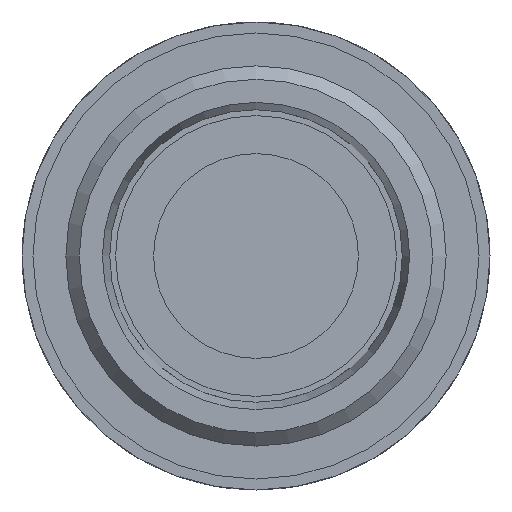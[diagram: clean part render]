
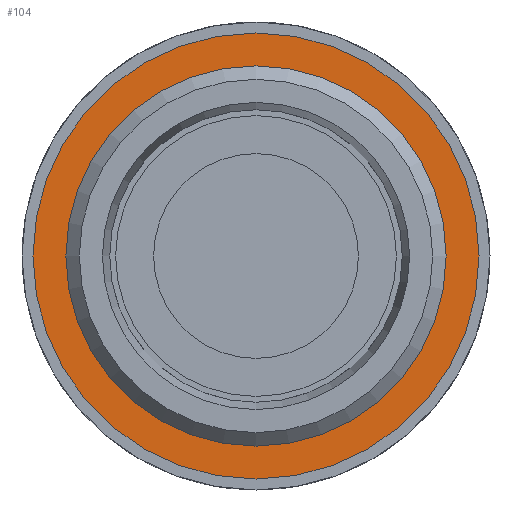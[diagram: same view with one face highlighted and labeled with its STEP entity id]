
A CAD part, left-side view. The second image highlights one B-rep face of the part: STEP entity #104.
In plain terms, the highlighted planar face has unit normal (-1, 0, 0).
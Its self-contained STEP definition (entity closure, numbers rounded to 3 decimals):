
#104 = ADVANCED_FACE( '', ( #181, #182 ), #183, .F. );
#181 = FACE_OUTER_BOUND( '', #263, .T. );
#182 = FACE_BOUND( '', #264, .T. );
#183 = PLANE( '', #265 );
#263 = EDGE_LOOP( '', ( #438 ) );
#264 = EDGE_LOOP( '', ( #439 ) );
#265 = AXIS2_PLACEMENT_3D( '', #440, #441, #442 );
#438 = ORIENTED_EDGE( '', *, *, #528, .F. );
#439 = ORIENTED_EDGE( '', *, *, #529, .T. );
#440 = CARTESIAN_POINT( '', ( 8.3, 13., 0. ) );
#441 = DIRECTION( '', ( 1., 0., 0. ) );
#442 = DIRECTION( '', ( 0., 0., -1. ) );
#528 = EDGE_CURVE( '', #622, #622, #623, .T. );
#529 = EDGE_CURVE( '', #624, #624, #625, .T. );
#622 = VERTEX_POINT( '', #790 );
#623 = CIRCLE( '', #791, 15.25 );
#624 = VERTEX_POINT( '', #792 );
#625 = CIRCLE( '', #793, 13. );
#790 = CARTESIAN_POINT( '', ( 8.3, 0., -15.25 ) );
#791 = AXIS2_PLACEMENT_3D( '', #896, #897, #898 );
#792 = CARTESIAN_POINT( '', ( 8.3, 0., -13. ) );
#793 = AXIS2_PLACEMENT_3D( '', #899, #900, #901 );
#896 = CARTESIAN_POINT( '', ( 8.3, 0., 0. ) );
#897 = DIRECTION( '', ( 1., 0., 0. ) );
#898 = DIRECTION( '', ( 0., 0., -1. ) );
#899 = CARTESIAN_POINT( '', ( 8.3, 0., 0. ) );
#900 = DIRECTION( '', ( 1., 0., 0. ) );
#901 = DIRECTION( '', ( 0., 0., -1. ) );
